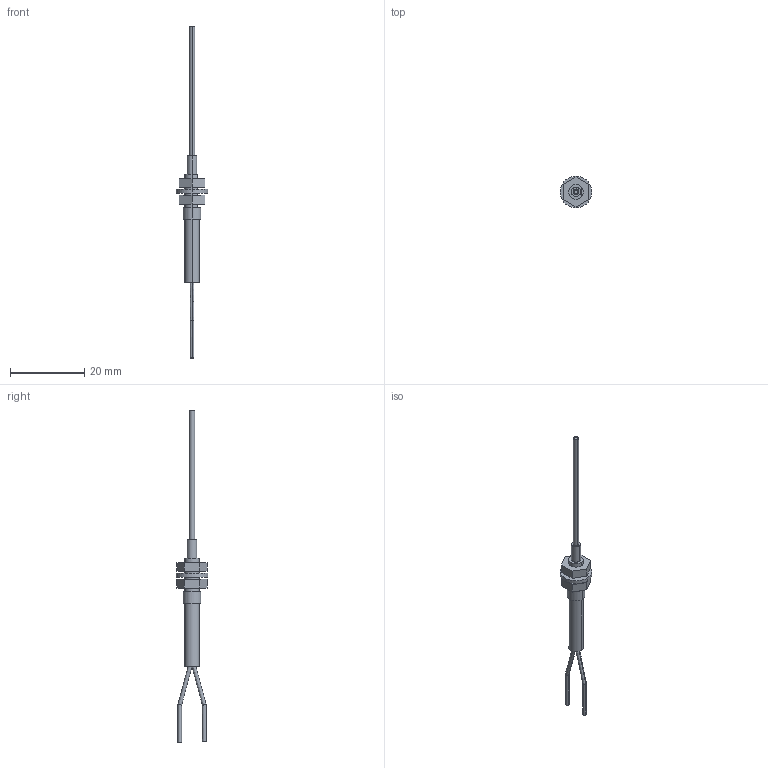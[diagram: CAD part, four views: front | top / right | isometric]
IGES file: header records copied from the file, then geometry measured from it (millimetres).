
Start section: SolidWorks IGES FILE using analytic representation for surfaces
Global section: file name: C:\Documents and Settings\yk0651\デスクトップ\3D_catalog_050904\0_IGES\FD-NFM2S4.IGS; native system: SolidWorks 2004 by SolidWorks Corporation; preprocessor: Version 5.3; author: yk0651; date: 050904.191024; units: millimetre
Bounding box: 8.5 x 8.5 x 89.45 mm (x, y, z)
Volume: 677.8 mm3; surface area: 1162.8 mm2
Topology: 4 solids, 4 shells, 57 faces, 124 edges, 81 vertices
Faces by surface type: revolution 29, plane 28
